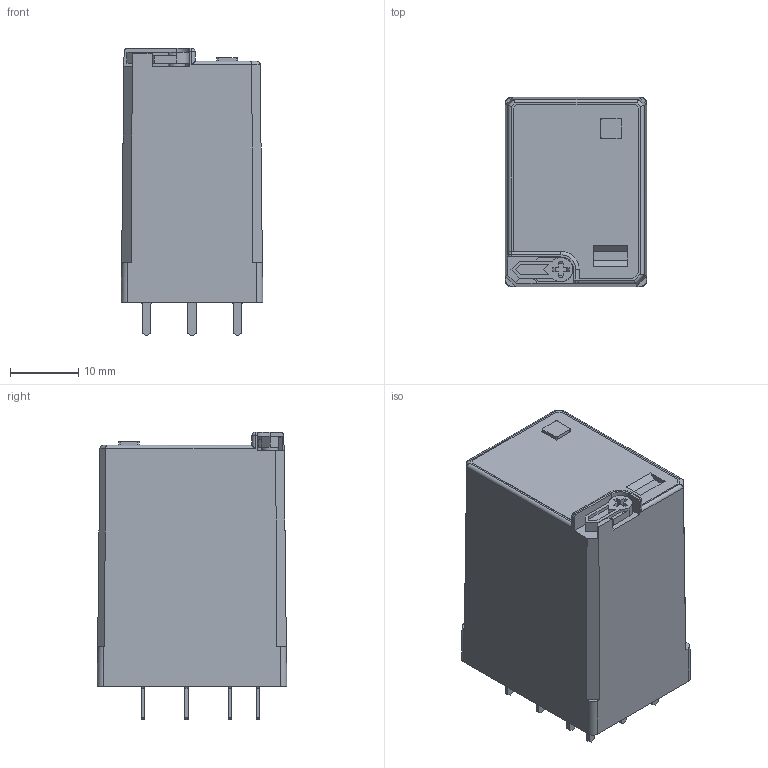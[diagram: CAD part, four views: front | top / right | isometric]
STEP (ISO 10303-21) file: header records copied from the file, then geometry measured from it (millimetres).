
FILE_DESCRIPTION(('STEP AP214'),'2;1');
FILE_NAME('complessivo 55 3 sc con pulsante CS AC---catalogo.stp','2010-11-19T14:29:32',(''),(''),'2007.1.106','THINKDESIGN','');
FILE_SCHEMA(('AUTOMOTIVE_DESIGN'));
Length unit declared in the file: millimetre
Products named in the file (1): None
Bounding box: 20.7 x 27.7 x 42 mm (x, y, z)
Surface area: 7530.8 mm2 (no closed solid volume)
Topology: 0 solids, 0 shells, 294 faces, 1635 edges, 1628 vertices
Faces by surface type: plane 214, cylinder 50, bspline 30
Full cylindrical faces by diameter (mm): 2.5 x1, 5 x1
Entity records: 16967 total; most frequent: CARTESIAN_POINT 5007, DIRECTION 2056, COMPOSITE_CURVE_SEGMENT 1633, TRIMMED_CURVE 1442, VECTOR 1362, LINE 1362, AXIS2_PLACEMENT_3D 347, OUTER_BOUNDARY_CURVE 294
